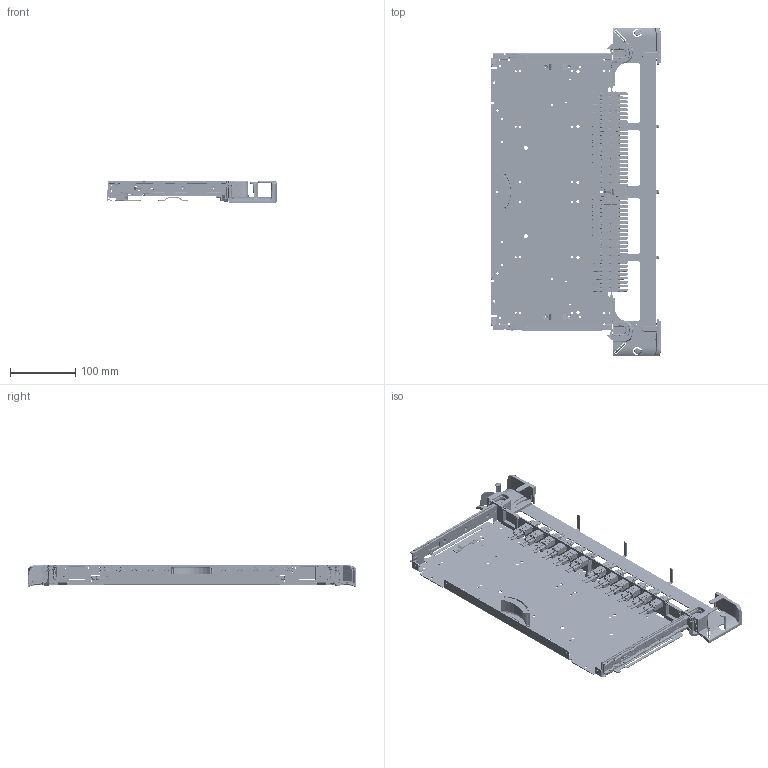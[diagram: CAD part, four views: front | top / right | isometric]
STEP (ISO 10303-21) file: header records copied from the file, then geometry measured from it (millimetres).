
FILE_DESCRIPTION(/* description */ (''),/* implementation_level */ '2;1');
FILE_NAME(/* name */ 'PRIME_FBU_LCD.stp',/* time_stamp */ '2019-01-16T11:33:31+02:00',/* author */ (''),/* organization */ (''),/* preprocessor_version */ 'ST-DEVELOPER v16',/* originating_system */ 'SIEMENS PLM Software NX 11.0',/* authorisation */ '');
FILE_SCHEMA (('AUTOMOTIVE_DESIGN { 1 0 10303 214 3 1 1 1 }'));
Products named in the file (1): sata05000D84evw7
Bounding box: 261.4 x 504 x 34.1 mm (x, y, z)
Volume: 321743.7 mm3; surface area: 515926.7 mm2
Topology: 272 solids, 273 shells, 45446 faces, 123659 edges, 78317 vertices
Faces by surface type: plane 21851, cylinder 14881, bspline 4482, extrusion 1596, cone 1527, sphere 664, torus 445
Full cylindrical faces by diameter (mm): 1.3 x96, 1.4 x96, 1.83 x14, 2 x1, 2.2 x9, 2.4 x4, 2.5 x10, 3 x22, 3.34 x4, 3.35 x22, 3.5 x4, 3.624 x4, 3.7 x39, 4.5 x2, 4.7 x6, 4.8 x12, 5.6 x2, 6.3 x6
Entity records: 1552960 total; most frequent: CARTESIAN_POINT 427862, ORIENTED_EDGE 242038, DIRECTION 223154, EDGE_CURVE 121020, VERTEX_POINT 77778, AXIS2_PLACEMENT_3D 74435, VECTOR 74284, LINE 72688
